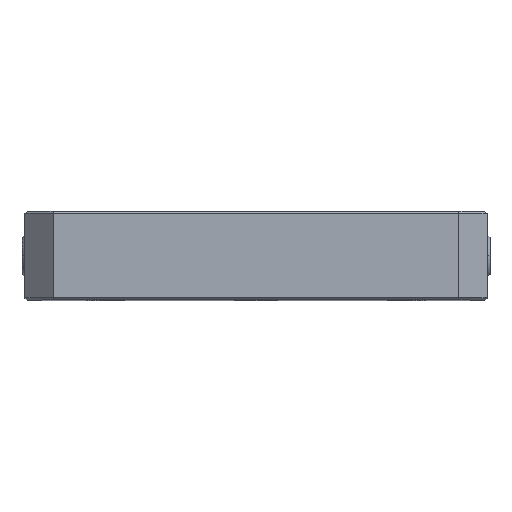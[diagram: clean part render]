
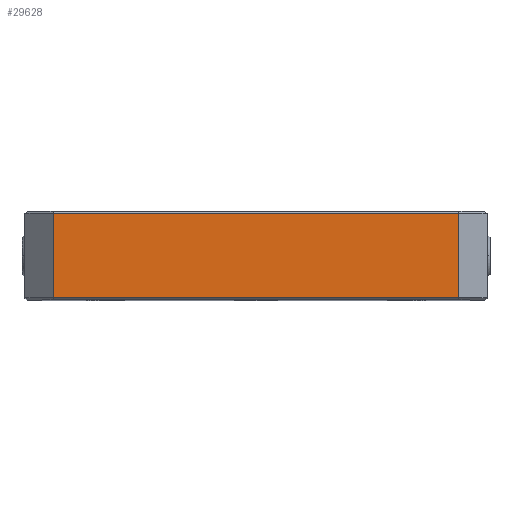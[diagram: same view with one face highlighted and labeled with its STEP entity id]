
A CAD part, top view. The second image highlights one B-rep face of the part: STEP entity #29628.
In plain terms, the highlighted planar face has unit normal (0, 0, 1).
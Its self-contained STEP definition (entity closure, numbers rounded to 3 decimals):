
#209 = LINE ( 'NONE', #20160, #27132 ) ;
#1811 = CARTESIAN_POINT ( 'NONE',  ( -68.475, 30., 88. ) ) ;
#2109 = EDGE_CURVE ( 'NONE', #9687, #19182, #209, .T. ) ;
#4002 = CARTESIAN_POINT ( 'NONE',  ( 68.475, 29.238, 88. ) ) ;
#4262 = EDGE_CURVE ( 'NONE', #33348, #9687, #17466, .T. ) ;
#4903 = LINE ( 'NONE', #14271, #32651 ) ;
#7698 = ORIENTED_EDGE ( 'NONE', *, *, #26841, .T. ) ;
#9259 = PLANE ( 'NONE',  #24305 ) ;
#9687 = VERTEX_POINT ( 'NONE', #4002 ) ;
#9742 = VECTOR ( 'NONE', #21346, 1000. ) ;
#12111 = CARTESIAN_POINT ( 'NONE',  ( -68.475, 29.238, 88. ) ) ;
#12643 = LINE ( 'NONE', #1811, #25677 ) ;
#13030 = ORIENTED_EDGE ( 'NONE', *, *, #4262, .T. ) ;
#13840 = CARTESIAN_POINT ( 'NONE',  ( 68.475, 0.762, 88. ) ) ;
#14271 = CARTESIAN_POINT ( 'NONE',  ( -78., 0.762, 88. ) ) ;
#14390 = EDGE_CURVE ( 'NONE', #20833, #33348, #4903, .T. ) ;
#14576 = DIRECTION ( 'NONE',  ( 0., 0., -1. ) ) ;
#17466 = LINE ( 'NONE', #29111, #9742 ) ;
#19091 = ORIENTED_EDGE ( 'NONE', *, *, #2109, .T. ) ;
#19182 = VERTEX_POINT ( 'NONE', #12111 ) ;
#19193 = CARTESIAN_POINT ( 'NONE',  ( -68.475, 0.762, 88. ) ) ;
#20123 = FACE_OUTER_BOUND ( 'NONE', #27510, .T. ) ;
#20160 = CARTESIAN_POINT ( 'NONE',  ( -68.475, 29.238, 88. ) ) ;
#20267 = DIRECTION ( 'NONE',  ( -1., 0., 0. ) ) ;
#20833 = VERTEX_POINT ( 'NONE', #19193 ) ;
#21346 = DIRECTION ( 'NONE',  ( 0., 1., 0. ) ) ;
#24305 = AXIS2_PLACEMENT_3D ( 'NONE', #30208, #14576, #32818 ) ;
#25677 = VECTOR ( 'NONE', #33165, 1000. ) ;
#26616 = ORIENTED_EDGE ( 'NONE', *, *, #14390, .T. ) ;
#26841 = EDGE_CURVE ( 'NONE', #19182, #20833, #12643, .T. ) ;
#27132 = VECTOR ( 'NONE', #20267, 1000. ) ;
#27510 = EDGE_LOOP ( 'NONE', ( #13030, #19091, #7698, #26616 ) ) ;
#29111 = CARTESIAN_POINT ( 'NONE',  ( 68.475, 30., 88. ) ) ;
#29628 = ADVANCED_FACE ( 'NONE', ( #20123 ), #9259, .F. ) ;
#29904 = DIRECTION ( 'NONE',  ( 1., 0., 0. ) ) ;
#30208 = CARTESIAN_POINT ( 'NONE',  ( -78., 30., 88. ) ) ;
#32651 = VECTOR ( 'NONE', #29904, 1000. ) ;
#32818 = DIRECTION ( 'NONE',  ( -1., 0., 0. ) ) ;
#33165 = DIRECTION ( 'NONE',  ( 0., -1., 0. ) ) ;
#33348 = VERTEX_POINT ( 'NONE', #13840 ) ;
